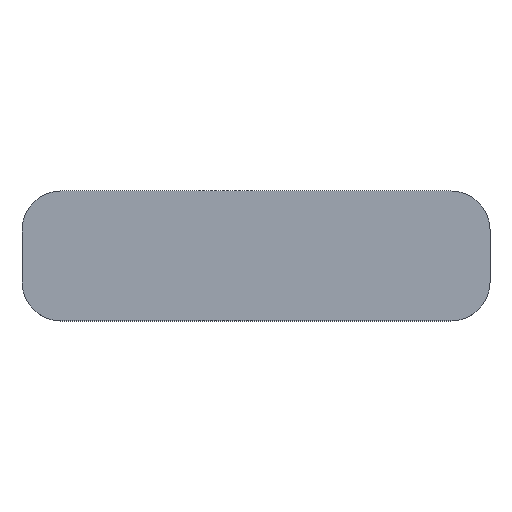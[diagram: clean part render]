
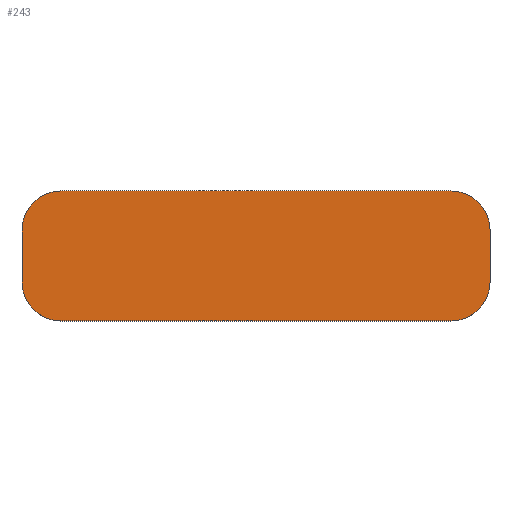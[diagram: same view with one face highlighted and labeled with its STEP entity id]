
A CAD part, top view. The second image highlights one B-rep face of the part: STEP entity #243.
In plain terms, the highlighted planar face has unit normal (0, 0, 1).
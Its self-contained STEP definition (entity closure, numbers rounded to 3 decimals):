
#34=CIRCLE('',#279,1.5);
#35=CIRCLE('',#280,1.5);
#36=CIRCLE('',#281,1.5);
#37=CIRCLE('',#282,1.5);
#68=ORIENTED_EDGE('',*,*,#112,.T.);
#69=ORIENTED_EDGE('',*,*,#124,.T.);
#70=ORIENTED_EDGE('',*,*,#114,.T.);
#71=ORIENTED_EDGE('',*,*,#125,.T.);
#72=ORIENTED_EDGE('',*,*,#102,.T.);
#73=ORIENTED_EDGE('',*,*,#126,.T.);
#74=ORIENTED_EDGE('',*,*,#108,.T.);
#75=ORIENTED_EDGE('',*,*,#127,.T.);
#102=EDGE_CURVE('',#132,#133,#154,.T.);
#108=EDGE_CURVE('',#139,#138,#160,.T.);
#112=EDGE_CURVE('',#143,#142,#164,.T.);
#114=EDGE_CURVE('',#144,#145,#166,.T.);
#124=EDGE_CURVE('',#142,#144,#34,.T.);
#125=EDGE_CURVE('',#145,#132,#35,.T.);
#126=EDGE_CURVE('',#133,#139,#36,.T.);
#127=EDGE_CURVE('',#138,#143,#37,.T.);
#132=VERTEX_POINT('',#378);
#133=VERTEX_POINT('',#379);
#138=VERTEX_POINT('',#390);
#139=VERTEX_POINT('',#392);
#142=VERTEX_POINT('',#399);
#143=VERTEX_POINT('',#401);
#144=VERTEX_POINT('',#405);
#145=VERTEX_POINT('',#406);
#154=LINE('',#377,#170);
#160=LINE('',#391,#176);
#164=LINE('',#400,#180);
#166=LINE('',#404,#182);
#170=VECTOR('',#301,1000.);
#176=VECTOR('',#309,1000.);
#180=VECTOR('',#315,1000.);
#182=VECTOR('',#319,1000.);
#193=EDGE_LOOP('',(#68,#69,#70,#71,#72,#73,#74,#75));
#215=FACE_BOUND('',#193,.T.);
#235=PLANE('',#278);
#243=ADVANCED_FACE('',(#215),#235,.T.);
#278=AXIS2_PLACEMENT_3D('',#421,#337,#338);
#279=AXIS2_PLACEMENT_3D('',#422,#339,#340);
#280=AXIS2_PLACEMENT_3D('',#423,#341,#342);
#281=AXIS2_PLACEMENT_3D('',#424,#343,#344);
#282=AXIS2_PLACEMENT_3D('',#425,#345,#346);
#301=DIRECTION('',(1.,0.,0.));
#309=DIRECTION('',(0.,1.,0.));
#315=DIRECTION('',(-1.,0.,0.));
#319=DIRECTION('',(0.,-1.,0.));
#337=DIRECTION('',(0.,0.,1.));
#338=DIRECTION('',(1.,0.,0.));
#339=DIRECTION('',(0.,0.,1.));
#340=DIRECTION('',(1.,0.,0.));
#341=DIRECTION('',(0.,0.,1.));
#342=DIRECTION('',(1.,0.,0.));
#343=DIRECTION('',(0.,0.,1.));
#344=DIRECTION('',(1.,0.,0.));
#345=DIRECTION('',(0.,0.,1.));
#346=DIRECTION('',(1.,0.,0.));
#377=CARTESIAN_POINT('',(-6.,-2.5,0.));
#378=CARTESIAN_POINT('',(-6.5,-2.5,0.));
#379=CARTESIAN_POINT('',(8.5,-2.5,0.));
#390=CARTESIAN_POINT('',(10.,1.,0.));
#391=CARTESIAN_POINT('',(10.,-2.5,0.));
#392=CARTESIAN_POINT('',(10.,-1.,0.));
#399=CARTESIAN_POINT('',(-6.5,2.5,0.));
#400=CARTESIAN_POINT('',(6.,2.5,0.));
#401=CARTESIAN_POINT('',(8.5,2.5,0.));
#404=CARTESIAN_POINT('',(-8.,2.5,0.));
#405=CARTESIAN_POINT('',(-8.,1.,0.));
#406=CARTESIAN_POINT('',(-8.,-1.,0.));
#421=CARTESIAN_POINT('',(0.,0.,0.));
#422=CARTESIAN_POINT('',(-6.5,1.,0.));
#423=CARTESIAN_POINT('',(-6.5,-1.,0.));
#424=CARTESIAN_POINT('',(8.5,-1.,0.));
#425=CARTESIAN_POINT('',(8.5,1.,0.));
